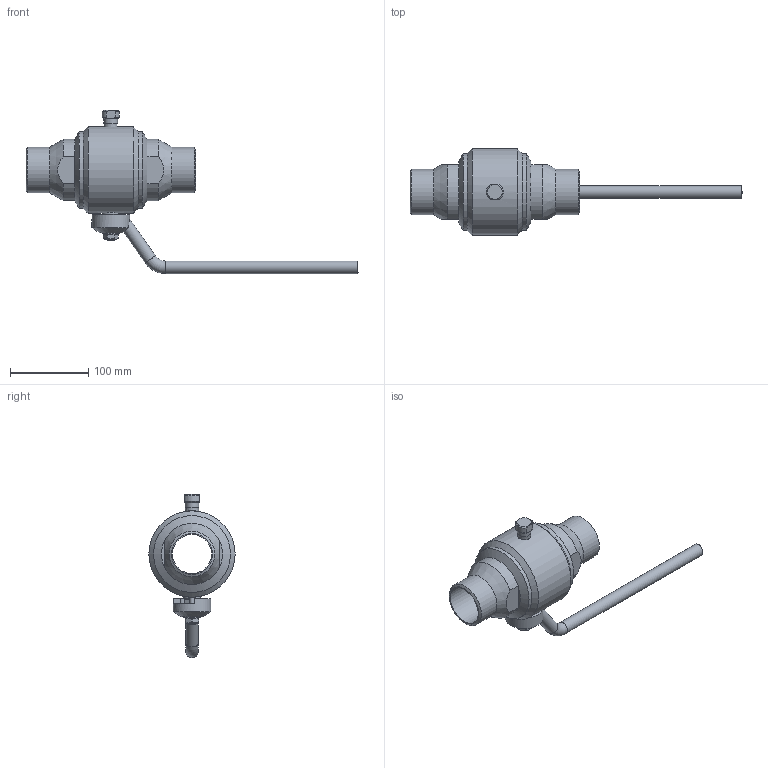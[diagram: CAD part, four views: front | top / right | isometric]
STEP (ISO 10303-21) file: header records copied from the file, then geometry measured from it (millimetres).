
FILE_DESCRIPTION(('STEP AP203'), '1');
FILE_NAME('ZARDP 050.025.40.P.stp', '2013-12-06T08:12:38', ('Øèøêî'), ('Ýíåðïðåä ßðäîñ'), 'ASCON STEP Converter 1.3', 'Kompas 3D', '');
FILE_SCHEMA(('CONFIG_CONTROL_DESIGN','SUPPORT_RESOURCE_SCHEMA'));
Length unit declared in the file: millimetre
Products named in the file (1): 203
Bounding box: 423.01 x 110 x 208 mm (x, y, z)
Volume: 797274.1 mm3; surface area: 134901.5 mm2
Topology: 1 solids, 9 shells, 175 faces, 396 edges, 246 vertices
Faces by surface type: plane 82, cylinder 56, cone 29, torus 8
Full cylindrical faces by diameter (mm): 6 x2, 10 x2, 16 x3, 17.33 x1, 21.8 x1, 22 x2, 48 x1, 50 x2, 58 x2, 83.4 x1, 98 x2, 110 x1
Entity records: 6953 total; most frequent: CARTESIAN_POINT 2918, DIRECTION 852, ORIENTED_EDGE 792, EDGE_CURVE 396, AXIS2_PLACEMENT_3D 337, VERTEX_POINT 246, EDGE_LOOP 194, LINE 178
